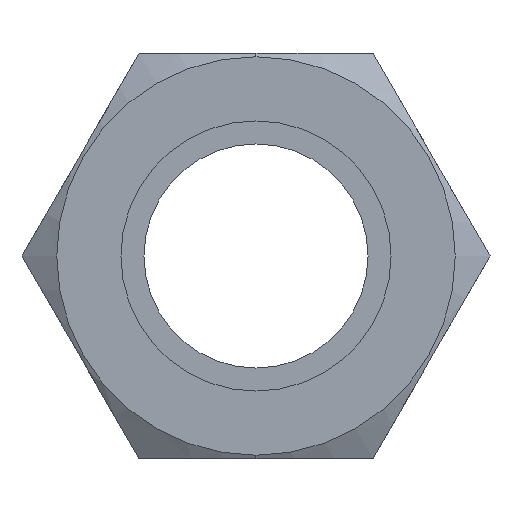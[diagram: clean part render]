
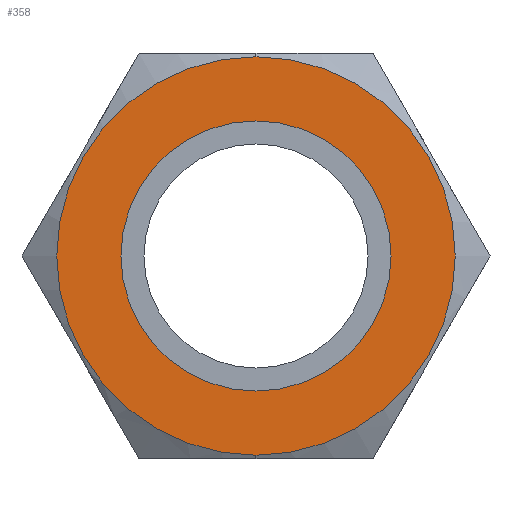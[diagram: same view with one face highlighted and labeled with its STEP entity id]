
A CAD part, left-side view. The second image highlights one B-rep face of the part: STEP entity #358.
In plain terms, the highlighted planar face has unit normal (-1, 0, 0).
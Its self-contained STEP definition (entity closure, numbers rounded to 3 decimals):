
#33 = EDGE_CURVE ( 'NONE', #34, #50, #776, .T. ) ;
#34 = VERTEX_POINT ( 'NONE', #771 ) ;
#50 = VERTEX_POINT ( 'NONE', #880 ) ;
#74 = VERTEX_POINT ( 'NONE', #920 ) ;
#76 = EDGE_CURVE ( 'NONE', #74, #77, #919, .T. ) ;
#77 = VERTEX_POINT ( 'NONE', #914 ) ;
#358 = ADVANCED_FACE ( 'NONE', ( #1602, #1601 ), #1600, .T. ) ;
#576 = ORIENTED_EDGE ( 'NONE', *, *, #693, .F. ) ;
#588 = EDGE_CURVE ( 'NONE', #50, #34, #1908, .T. ) ;
#678 = EDGE_LOOP ( 'NONE', ( #576, #694 ) ) ;
#679 = EDGE_LOOP ( 'NONE', ( #695, #696 ) ) ;
#693 = EDGE_CURVE ( 'NONE', #77, #74, #2113, .T. ) ;
#694 = ORIENTED_EDGE ( 'NONE', *, *, #76, .F. ) ;
#695 = ORIENTED_EDGE ( 'NONE', *, *, #33, .T. ) ;
#696 = ORIENTED_EDGE ( 'NONE', *, *, #588, .T. ) ;
#771 = CARTESIAN_POINT ( 'NONE',  ( -22.18, 0., 14.05 ) ) ;
#772 = DIRECTION ( 'NONE',  ( 0., 0., 1. ) ) ;
#773 = DIRECTION ( 'NONE',  ( -1., 0., 0. ) ) ;
#774 = CARTESIAN_POINT ( 'NONE',  ( -22.18, 0., 0. ) ) ;
#775 = AXIS2_PLACEMENT_3D ( 'NONE', #774, #773, #772 ) ;
#776 = CIRCLE ( 'NONE', #775, 14.05 ) ;
#880 = CARTESIAN_POINT ( 'NONE',  ( -22.18, 0., -14.05 ) ) ;
#914 = CARTESIAN_POINT ( 'NONE',  ( -22.18, 0., 9.525 ) ) ;
#915 = DIRECTION ( 'NONE',  ( 0., 0., 1. ) ) ;
#916 = DIRECTION ( 'NONE',  ( -1., 0., 0. ) ) ;
#917 = CARTESIAN_POINT ( 'NONE',  ( -22.18, 0., 0. ) ) ;
#918 = AXIS2_PLACEMENT_3D ( 'NONE', #917, #916, #915 ) ;
#919 = CIRCLE ( 'NONE', #918, 9.525 ) ;
#920 = CARTESIAN_POINT ( 'NONE',  ( -22.18, 0., -9.525 ) ) ;
#1595 = DIRECTION ( 'NONE',  ( 0., 0., 1. ) ) ;
#1596 = DIRECTION ( 'NONE',  ( -1., 0., 0. ) ) ;
#1597 = AXIS2_PLACEMENT_3D ( 'NONE', #1599, #1596, #1595 ) ;
#1599 = CARTESIAN_POINT ( 'NONE',  ( -22.18, 16.501, 0. ) ) ;
#1600 = PLANE ( 'NONE',  #1597 ) ;
#1601 = FACE_OUTER_BOUND ( 'NONE', #679, .T. ) ;
#1602 = FACE_BOUND ( 'NONE', #678, .T. ) ;
#1908 = CIRCLE ( 'NONE', #2023, 14.05 ) ;
#2020 = DIRECTION ( 'NONE',  ( 0., 0., 1. ) ) ;
#2021 = DIRECTION ( 'NONE',  ( -1., 0., 0. ) ) ;
#2022 = CARTESIAN_POINT ( 'NONE',  ( -22.18, 0., 0. ) ) ;
#2023 = AXIS2_PLACEMENT_3D ( 'NONE', #2022, #2021, #2020 ) ;
#2077 = CARTESIAN_POINT ( 'NONE',  ( -22.18, 0., 0. ) ) ;
#2110 = DIRECTION ( 'NONE',  ( 0., 0., 1. ) ) ;
#2111 = DIRECTION ( 'NONE',  ( -1., 0., 0. ) ) ;
#2112 = AXIS2_PLACEMENT_3D ( 'NONE', #2077, #2111, #2110 ) ;
#2113 = CIRCLE ( 'NONE', #2112, 9.525 ) ;
